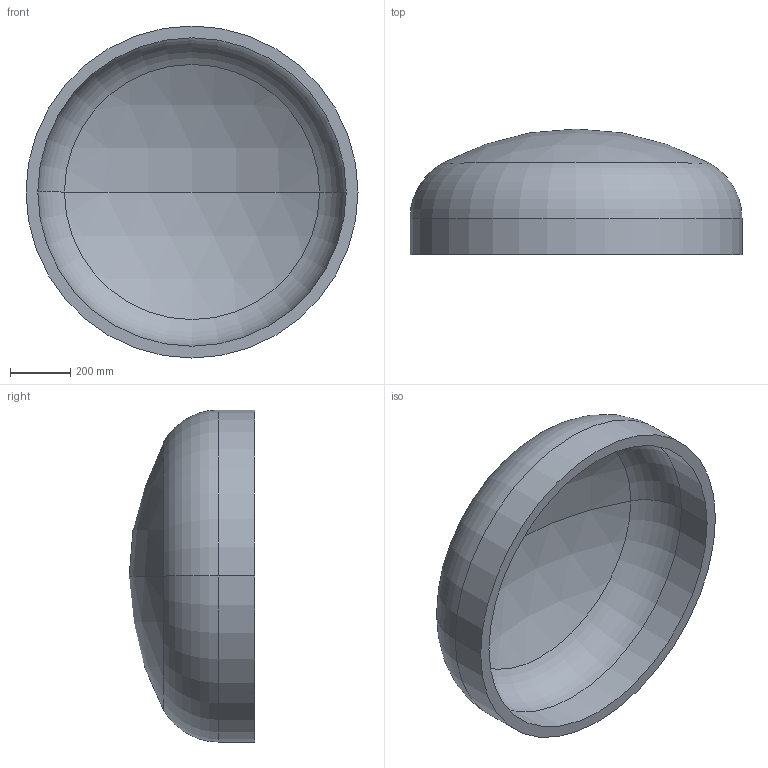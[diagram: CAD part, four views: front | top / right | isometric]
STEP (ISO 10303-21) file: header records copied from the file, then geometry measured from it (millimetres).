
FILE_DESCRIPTION (( 'STEP AP203' ), '1' );
FILE_NAME ('DIN 28013 Korbbogenform_-_Boden DIN 28013 - 1100 x 120 - I - s=39.step', '2016-07-01T09:07:22', ( '' ), ( '' ), 'SwSTEP 2.0', 'SolidWorks 2013', '' );
FILE_SCHEMA (( 'CONFIG_CONTROL_DESIGN' ));
Length unit declared in the file: millimetre
Products named in the file (1): DIN 28013 Korbbogenform_-_Boden DIN 28013 - 1100 x 120 - I - s=39
Bounding box: 1100 x 416.25 x 1100 mm (x, y, z)
Volume: 64653001.2 mm3; surface area: 3448719.2 mm2
Topology: 1 solids, 1 shells, 13 faces, 24 edges, 14 vertices
Faces by surface type: torus 4, cylinder 4, sphere 4, plane 1
Entity records: 407 total; most frequent: DIRECTION 72, CARTESIAN_POINT 52, ORIENTED_EDGE 48, AXIS2_PLACEMENT_3D 34, EDGE_CURVE 24, CIRCLE 20, VERTEX_POINT 14, EDGE_LOOP 14
